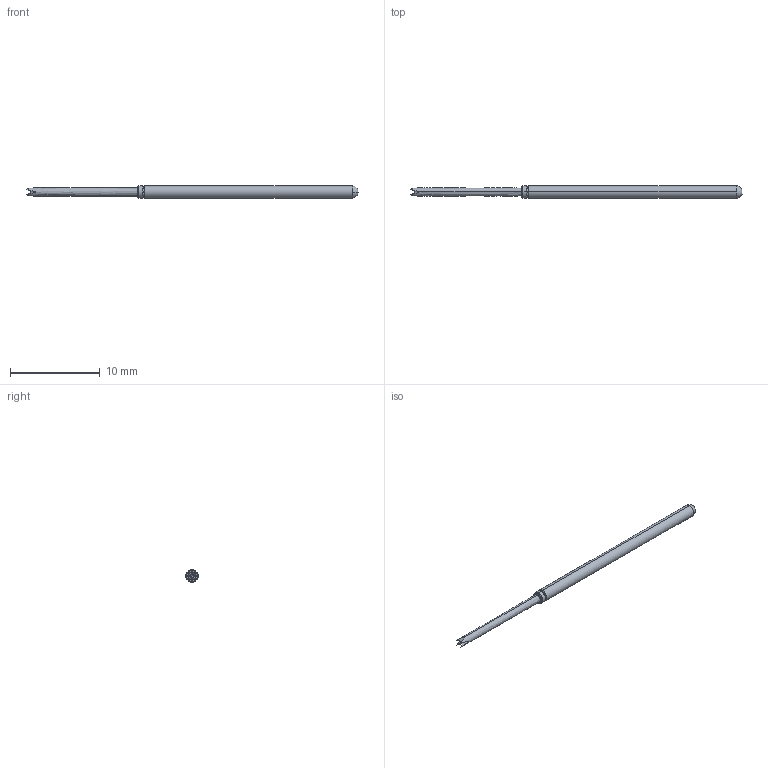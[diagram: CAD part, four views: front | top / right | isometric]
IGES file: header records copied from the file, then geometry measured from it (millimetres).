
Start section: SolidWorks IGES file using analytic representation for surfaces
Global section: file name: Z:\probe solid model mockups\Solidworks models\LTP-25\LTP-25L36.IGS; native system: SolidWorks 2006 by SolidWorks Corporation; preprocessor: SolidWorks 2006 by SolidWorks Corporation; author: tsakatani; date: 071214.143243; units: inch
Bounding box: 37.08 x 1.37 x 1.37 mm (x, y, z)
Surface area: 143.5 mm2 (no closed solid volume)
Topology: 0 solids, 0 shells, 26 faces, 174 edges, 174 vertices
Faces by surface type: bspline 14, revolution 12
